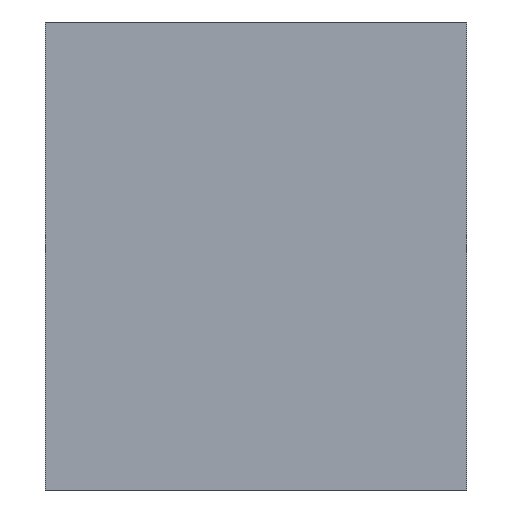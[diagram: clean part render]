
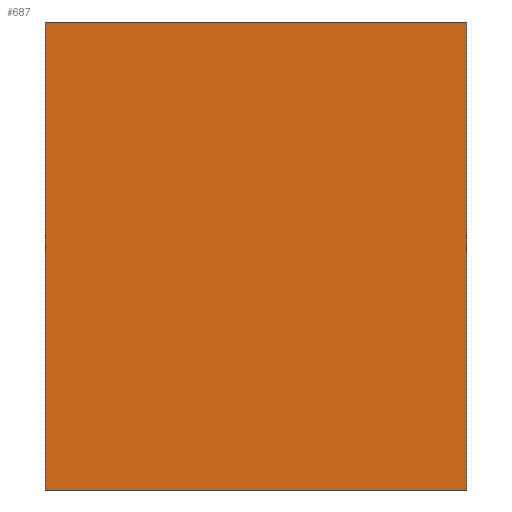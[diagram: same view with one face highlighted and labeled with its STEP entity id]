
A CAD part, left-side view. The second image highlights one B-rep face of the part: STEP entity #687.
In plain terms, the highlighted planar face has unit normal (-1, 0, 0).
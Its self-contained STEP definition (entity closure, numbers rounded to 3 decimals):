
#75=CARTESIAN_POINT('',(0.0,0.0,0.0));
#76=VERTEX_POINT('',#75);
#83=CARTESIAN_POINT('',(0.0,0.0,10.0));
#84=VERTEX_POINT('',#83);
#85=CARTESIAN_POINT('',(0.0,0.0,0.0));
#86=DIRECTION('',(0.0,0.0,1.0));
#87=VECTOR('',#86,10.0);
#88=LINE('',#85,#87);
#89=EDGE_CURVE('',#76,#84,#88,.T.);
#640=CARTESIAN_POINT('',(0.0,-9.0,0.0));
#641=VERTEX_POINT('',#640);
#649=CARTESIAN_POINT('',(0.0,-9.0,10.0));
#650=VERTEX_POINT('',#649);
#657=CARTESIAN_POINT('',(0.0,-9.0,0.0));
#658=DIRECTION('',(0.0,0.0,1.0));
#659=VECTOR('',#658,10.0);
#660=LINE('',#657,#659);
#661=EDGE_CURVE('',#641,#650,#660,.T.);
#666=CARTESIAN_POINT('',(0.0,0.0,0.0));
#667=DIRECTION('',(-1.0,0.0,0.0));
#668=DIRECTION('',(0.0,-1.0,0.0));
#669=AXIS2_PLACEMENT_3D('',#666,#667,#668);
#670=PLANE('',#669);
#671=CARTESIAN_POINT('',(0.0,0.0,0.0));
#672=DIRECTION('',(0.0,-1.0,0.0));
#673=VECTOR('',#672,9.0);
#674=LINE('',#671,#673);
#675=EDGE_CURVE('',#76,#641,#674,.T.);
#676=ORIENTED_EDGE('',*,*,#675,.T.);
#677=ORIENTED_EDGE('',*,*,#661,.T.);
#678=CARTESIAN_POINT('',(0.0,0.0,10.0));
#679=DIRECTION('',(0.0,-1.0,0.0));
#680=VECTOR('',#679,9.0);
#681=LINE('',#678,#680);
#682=EDGE_CURVE('',#84,#650,#681,.T.);
#683=ORIENTED_EDGE('',*,*,#682,.F.);
#684=ORIENTED_EDGE('',*,*,#89,.F.);
#685=EDGE_LOOP('',(#676,#677,#683,#684));
#686=FACE_OUTER_BOUND('',#685,.T.);
#687=ADVANCED_FACE('',(#686),#670,.T.);
